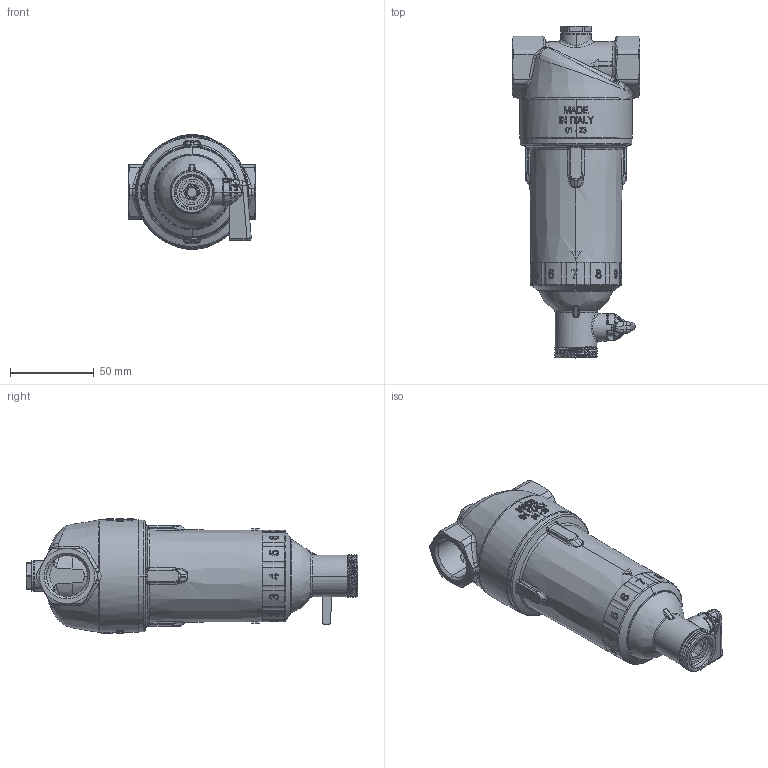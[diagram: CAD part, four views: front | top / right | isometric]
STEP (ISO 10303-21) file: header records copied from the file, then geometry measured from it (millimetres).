
FILE_DESCRIPTION (( 'STEP AP214' ), '1' );
FILE_NAME ('AWF120_filtr_do_wody_4212000_0_3D_AFRISO.STEP', '2024-06-27T06:30:49', ( '' ), ( '' ), 'SwSTEP 2.0', 'SolidWorks 2022', '' );
FILE_SCHEMA (( 'AUTOMOTIVE_DESIGN' ));
Length unit declared in the file: millimetre
Products named in the file (1): AWF120_filtr_do_wody_4212000_0_3D_AFRISO
Bounding box: 76 x 198.5 x 68.5 mm (x, y, z)
Volume: 205977 mm3; surface area: 103230.3 mm2
Topology: 3 solids, 5 shells, 4625 faces, 11427 edges, 7429 vertices
Faces by surface type: plane 2850, cylinder 971, bspline 685, cone 119
Entity records: 186525 total; most frequent: CARTESIAN_POINT 95756, ORIENTED_EDGE 22788, DIRECTION 14317, EDGE_CURVE 11394, VERTEX_POINT 7429, AXIS2_PLACEMENT_3D 5288, EDGE_LOOP 5287, ADVANCED_FACE 4625
